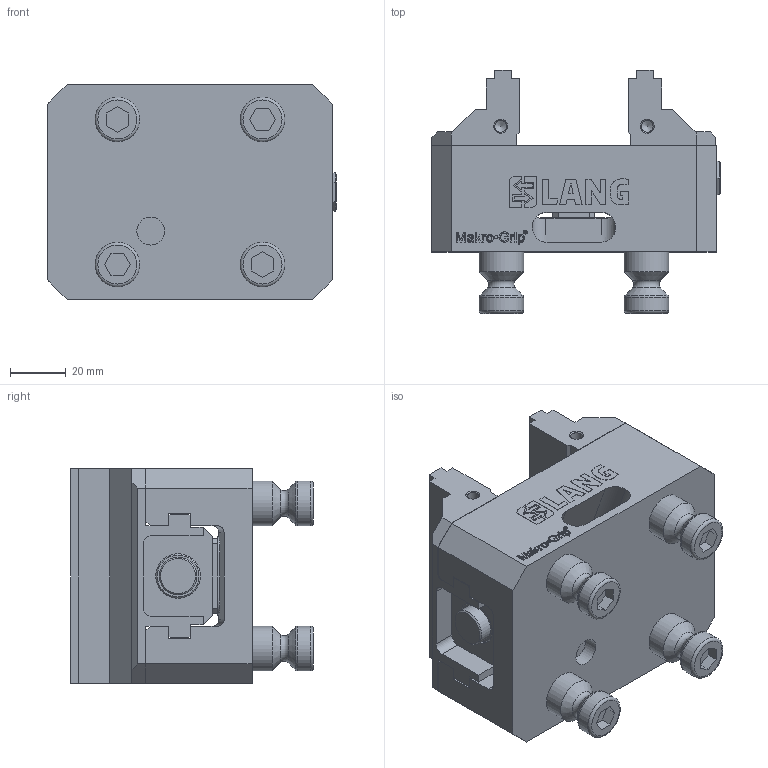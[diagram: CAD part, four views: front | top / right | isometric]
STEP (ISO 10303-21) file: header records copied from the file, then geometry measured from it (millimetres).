
FILE_DESCRIPTION (( 'STEP AP214' ), '1' );
FILE_NAME ('48085-77.STEP', '2020-02-04T12:30:31', ( '' ), ( '' ), 'SwSTEP 2.0', 'SolidWorks 2019', '' );
FILE_SCHEMA (( 'AUTOMOTIVE_DESIGN' ));
Length unit declared in the file: millimetre
Products named in the file (3): Makro-Grip_48085-77; 48085-77; 48085-7720
Assembly tree (3 placements, depth 2):
  48085-77
    Makro-Grip_48085-77
    48085-7720  x2
Bounding box: 103.5 x 87 x 77.2 mm (x, y, z)
Volume: 310593.9 mm3; surface area: 83458.7 mm2
Topology: 50 solids, 50 shells, 914 faces, 2324 edges, 1527 vertices
Faces by surface type: plane 625, bspline 192, cylinder 58, cone 27, torus 12
Full cylindrical faces by diameter (mm): 4.2 x4, 6.8 x4, 10 x1, 12 x8, 13.5 x1, 16 x12
Entity records: 42800 total; most frequent: CARTESIAN_POINT 13887, ORIENTED_EDGE 4172, DIRECTION 3105, EDGE_CURVE 2086, LINE 1571, VECTOR 1571, VERTEX_POINT 1409, EDGE_LOOP 963
